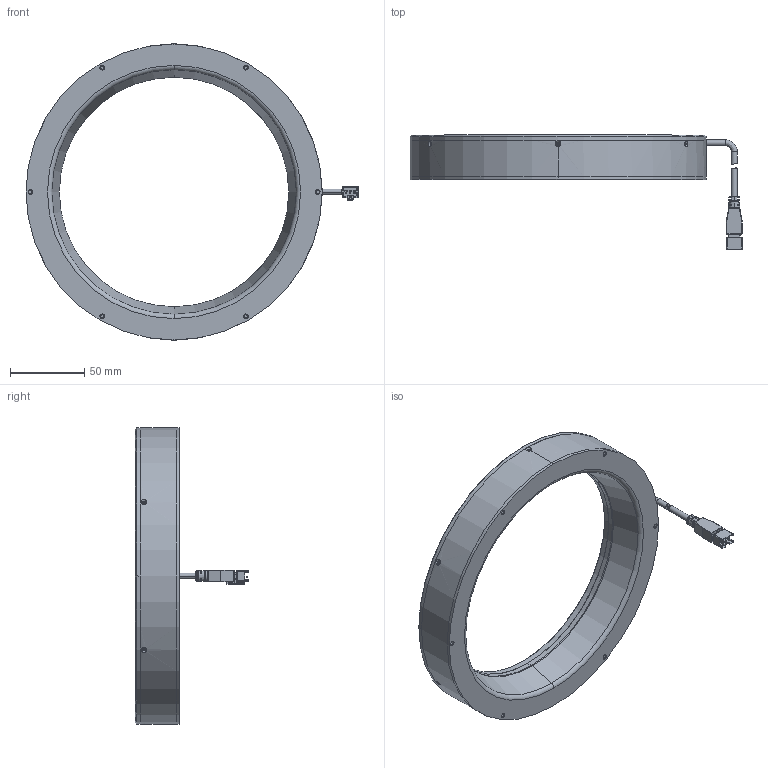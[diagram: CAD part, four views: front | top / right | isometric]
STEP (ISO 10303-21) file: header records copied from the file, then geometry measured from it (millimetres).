
FILE_DESCRIPTION (( 'STEP AP203' ), '1' );
FILE_NAME ('CRT-RL20015-¼òÒ×3DÍ¼.STEP', '2021-12-22T05:53:33', ( 'Admin' ), ( '' ), 'SwSTEP 2.0', 'SolidWorks 2018', '' );
FILE_SCHEMA (( 'CONFIG_CONTROL_DESIGN' ));
Length unit declared in the file: millimetre
Products named in the file (1): CRT-RL20015-潠眢3D芞
Bounding box: 224.25 x 76.95 x 200 mm (x, y, z)
Surface area: 82539.7 mm2 (no closed solid volume)
Topology: 0 solids, 5 shells, 258 faces, 788 edges, 517 vertices
Faces by surface type: plane 111, cylinder 97, cone 32, bspline 14, torus 4
Entity records: 10172 total; most frequent: CARTESIAN_POINT 3188, DIRECTION 1430, ORIENTED_EDGE 1352, EDGE_CURVE 784, VERTEX_POINT 517, AXIS2_PLACEMENT_3D 492, LINE 446, VECTOR 446
